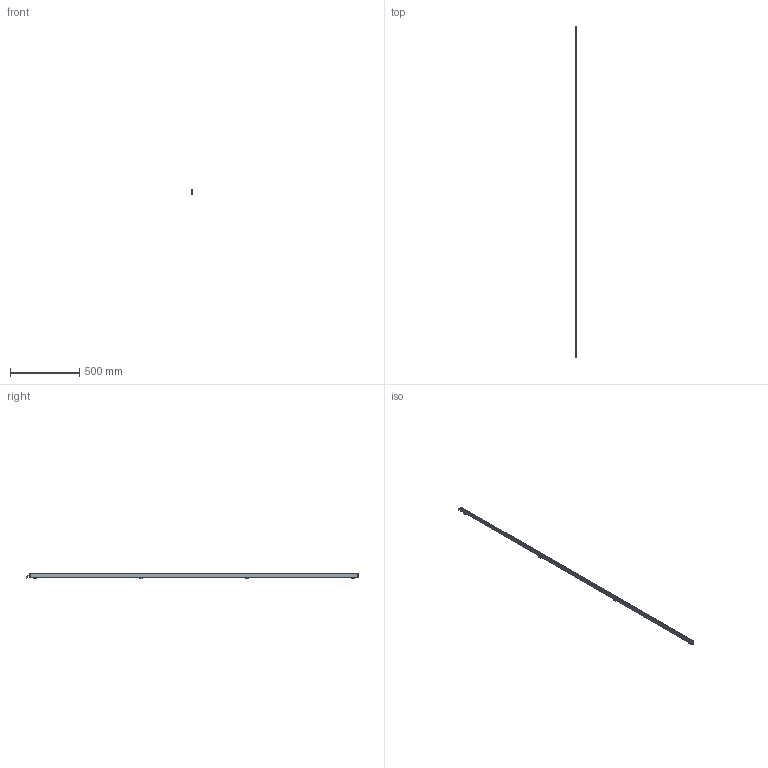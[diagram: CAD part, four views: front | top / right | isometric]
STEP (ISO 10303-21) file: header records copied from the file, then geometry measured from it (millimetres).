
FILE_DESCRIPTION (( 'STEP AP214' ), '1' );
FILE_NAME ('ILG-N-K1-2362mm.STEP', '2017-07-10T13:40:47', ( '' ), ( '' ), 'SwSTEP 2.0', 'SolidWorks 2016', '' );
FILE_SCHEMA (( 'AUTOMOTIVE_DESIGN' ));
Length unit declared in the file: millimetre
Products named in the file (1): ILG-N-K1-2362mm
Bounding box: 10.2 x 2390.25 x 42.41 mm (x, y, z)
Volume: 264951.9 mm3; surface area: 393402.6 mm2
Topology: 13 solids, 13 shells, 573 faces, 1449 edges, 896 vertices
Faces by surface type: plane 329, cylinder 170, cone 64, torus 10
Entity records: 23504 total; most frequent: CARTESIAN_POINT 3067, DIRECTION 2993, ORIENTED_EDGE 2882, EDGE_CURVE 1441, AXIS2_PLACEMENT_3D 1030, VECTOR 933, LINE 933, VERTEX_POINT 896
